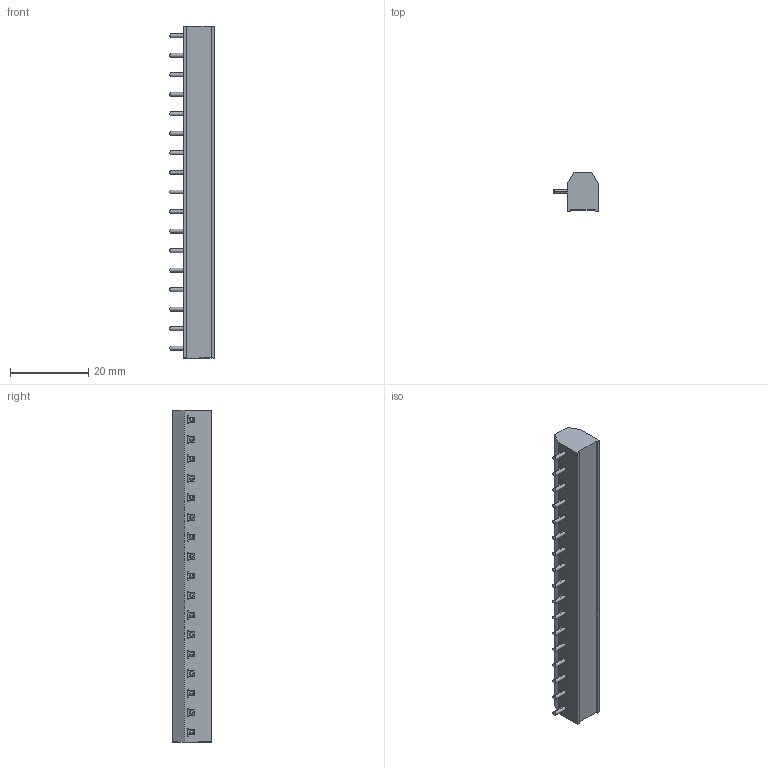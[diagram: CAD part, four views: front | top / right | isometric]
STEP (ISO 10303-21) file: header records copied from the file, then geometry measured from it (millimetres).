
FILE_DESCRIPTION (( 'STEP AP214' ), '1' );
FILE_NAME ('951-HG-DS-17.STEP', '2008-02-29T02:40:02', ( ' ' ), ( '' ), 'SwSTEP 2.0', 'SolidWorks 2007', '' );
FILE_SCHEMA (( 'AUTOMOTIVE_DESIGN' ));
Length unit declared in the file: millimetre
Products named in the file (1): 951-HG-DS-17
Bounding box: 11.5 x 10 x 85 mm (x, y, z)
Volume: 5443.3 mm3; surface area: 4970.8 mm2
Topology: 1 solids, 1 shells, 1230 faces, 3905 edges, 2592 vertices
Faces by surface type: plane 981, cylinder 181, cone 34, bspline 34
Entity records: 44707 total; most frequent: CARTESIAN_POINT 10499, ORIENTED_EDGE 7810, DIRECTION 6440, EDGE_CURVE 3905, VECTOR 2642, LINE 2642, VERTEX_POINT 2592, AXIS2_PLACEMENT_3D 1899
